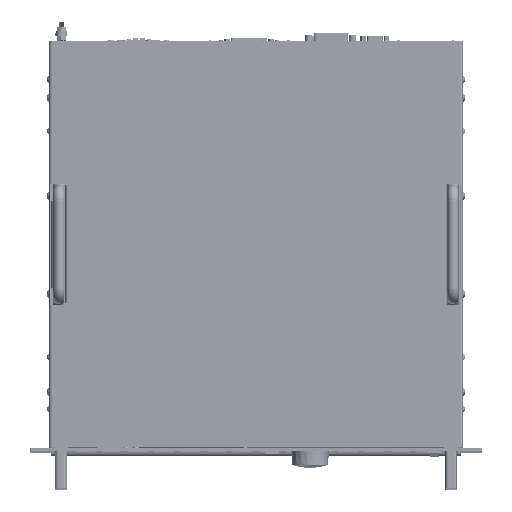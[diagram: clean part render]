
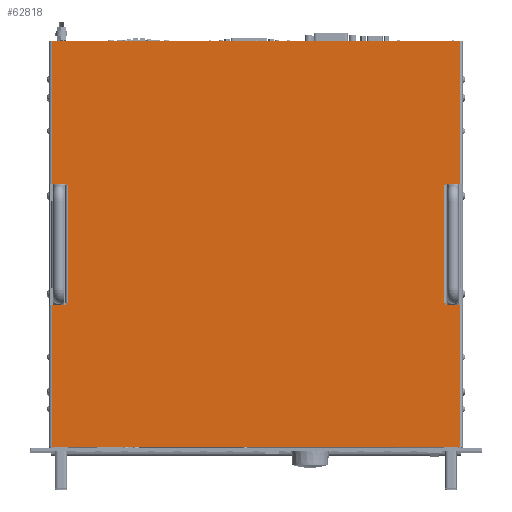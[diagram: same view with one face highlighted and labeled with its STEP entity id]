
A CAD part, top view. The second image highlights one B-rep face of the part: STEP entity #62818.
In plain terms, the highlighted planar face has unit normal (0, 0, 1).
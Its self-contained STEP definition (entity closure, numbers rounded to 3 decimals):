
#62818=ADVANCED_FACE('',(#131344),#131345,.F.);
#131344=FACE_OUTER_BOUND('',#230875,.T.);
#131345=PLANE('',#230876);
#230875=EDGE_LOOP('',(#415651,#415652,#415653,#415654,#415655,#415656,#415657,#415658,#415659,#415660,#415661,#415662,#415663,#415664,#415665,#415666,#415667,#415668,#415669,#415670));
#230876=AXIS2_PLACEMENT_3D('',#415671,#415672,#415673);
#415651=ORIENTED_EDGE('',*,*,#504675,.T.);
#415652=ORIENTED_EDGE('',*,*,#504695,.F.);
#415653=ORIENTED_EDGE('',*,*,#504696,.F.);
#415654=ORIENTED_EDGE('',*,*,#504339,.F.);
#415655=ORIENTED_EDGE('',*,*,#504661,.F.);
#415656=ORIENTED_EDGE('',*,*,#504324,.F.);
#415657=ORIENTED_EDGE('',*,*,#504650,.F.);
#415658=ORIENTED_EDGE('',*,*,#504697,.F.);
#415659=ORIENTED_EDGE('',*,*,#504693,.T.);
#415660=ORIENTED_EDGE('',*,*,#504688,.F.);
#415661=ORIENTED_EDGE('',*,*,#504685,.T.);
#415662=ORIENTED_EDGE('',*,*,#504698,.F.);
#415663=ORIENTED_EDGE('',*,*,#504626,.F.);
#415664=ORIENTED_EDGE('',*,*,#504314,.F.);
#415665=ORIENTED_EDGE('',*,*,#504615,.F.);
#415666=ORIENTED_EDGE('',*,*,#504334,.F.);
#415667=ORIENTED_EDGE('',*,*,#504699,.F.);
#415668=ORIENTED_EDGE('',*,*,#504700,.F.);
#415669=ORIENTED_EDGE('',*,*,#504672,.T.);
#415670=ORIENTED_EDGE('',*,*,#504680,.T.);
#415671=CARTESIAN_POINT('',(241.3,262.375,725.641));
#415672=DIRECTION('',(0.,0.,-1.0));
#415673=DIRECTION('',(1.0,0.,0.));
#504314=EDGE_CURVE('',#610505,#610507,#610508,.T.);
#504324=EDGE_CURVE('',#610523,#610525,#610526,.T.);
#504334=EDGE_CURVE('',#610541,#610543,#610544,.T.);
#504339=EDGE_CURVE('',#610550,#610552,#610553,.T.);
#504615=EDGE_CURVE('',#610543,#610505,#610983,.T.);
#504626=EDGE_CURVE('',#610507,#610998,#610999,.T.);
#504650=EDGE_CURVE('',#611031,#610523,#611033,.T.);
#504661=EDGE_CURVE('',#610525,#610550,#611048,.T.);
#504672=EDGE_CURVE('',#611059,#611062,#611064,.T.);
#504675=EDGE_CURVE('',#611069,#611066,#611070,.T.);
#504680=EDGE_CURVE('',#611062,#611069,#611075,.T.);
#504685=EDGE_CURVE('',#611081,#611079,#611082,.T.);
#504688=EDGE_CURVE('',#611081,#611085,#611086,.T.);
#504693=EDGE_CURVE('',#611091,#611085,#611093,.T.);
#504695=EDGE_CURVE('',#611095,#611066,#611096,.T.);
#504696=EDGE_CURVE('',#610552,#611095,#611097,.T.);
#504697=EDGE_CURVE('',#611091,#611031,#611098,.T.);
#504698=EDGE_CURVE('',#610998,#611079,#611099,.T.);
#504699=EDGE_CURVE('',#611100,#610541,#611101,.T.);
#504700=EDGE_CURVE('',#611059,#611100,#611102,.T.);
#610505=VERTEX_POINT('',#761854);
#610507=VERTEX_POINT('',#761856);
#610508=LINE('',#761857,#761858);
#610523=VERTEX_POINT('',#761876);
#610525=VERTEX_POINT('',#761878);
#610526=LINE('',#761879,#761880);
#610541=VERTEX_POINT('',#761898);
#610543=VERTEX_POINT('',#761900);
#610544=LINE('',#761901,#761902);
#610550=VERTEX_POINT('',#761909);
#610552=VERTEX_POINT('',#761911);
#610553=LINE('',#761912,#761913);
#610983=LINE('',#762464,#762465);
#610998=VERTEX_POINT('',#762485);
#610999=LINE('',#762486,#762487);
#611031=VERTEX_POINT('',#762533);
#611033=LINE('',#762536,#762537);
#611048=LINE('',#762557,#762558);
#611059=VERTEX_POINT('',#762573);
#611062=VERTEX_POINT('',#762577);
#611064=LINE('',#762579,#762580);
#611066=VERTEX_POINT('',#762582);
#611069=VERTEX_POINT('',#762586);
#611070=LINE('',#762587,#762588);
#611075=LINE('',#762593,#762594);
#611079=VERTEX_POINT('',#762599);
#611081=VERTEX_POINT('',#762602);
#611082=LINE('',#762603,#762604);
#611085=VERTEX_POINT('',#762607);
#611086=LINE('',#762608,#762609);
#611091=VERTEX_POINT('',#762614);
#611093=LINE('',#762617,#762618);
#611095=VERTEX_POINT('',#762620);
#611096=LINE('',#762621,#762622);
#611097=LINE('',#762623,#762624);
#611098=LINE('',#762625,#762626);
#611099=LINE('',#762627,#762628);
#611100=VERTEX_POINT('',#762629);
#611101=LINE('',#762630,#762631);
#611102=LINE('',#762632,#762633);
#761854=CARTESIAN_POINT('',(23.623,45.75,725.641));
#761856=CARTESIAN_POINT('',(23.623,197.75,725.641));
#761857=CARTESIAN_POINT('',(23.623,192.063,725.641));
#761858=VECTOR('',#849485,1.0);
#761876=CARTESIAN_POINT('',(23.623,327.,725.641));
#761878=CARTESIAN_POINT('',(23.623,479.,725.641));
#761879=CARTESIAN_POINT('',(23.623,332.688,725.641));
#761880=VECTOR('',#849501,1.0);
#761898=CARTESIAN_POINT('',(458.977,197.75,725.641));
#761900=CARTESIAN_POINT('',(458.977,45.75,725.641));
#761901=CARTESIAN_POINT('',(458.977,192.063,725.641));
#761902=VECTOR('',#849517,1.0);
#761909=CARTESIAN_POINT('',(458.977,479.,725.641));
#761911=CARTESIAN_POINT('',(458.977,327.,725.641));
#761912=CARTESIAN_POINT('',(458.977,332.688,725.641));
#761913=VECTOR('',#849525,1.0);
#762464=CARTESIAN_POINT('',(461.727,45.75,725.641));
#762465=VECTOR('',#849911,1.0);
#762485=CARTESIAN_POINT('',(38.873,197.75,725.641));
#762486=CARTESIAN_POINT('',(20.873,197.75,725.641));
#762487=VECTOR('',#849929,1.0);
#762533=CARTESIAN_POINT('',(38.873,327.,725.641));
#762536=CARTESIAN_POINT('',(38.873,327.,725.641));
#762537=VECTOR('',#849957,1.0);
#762557=CARTESIAN_POINT('',(20.873,479.,725.641));
#762558=VECTOR('',#849975,1.0);
#762573=CARTESIAN_POINT('',(443.727,199.75,725.641));
#762577=CARTESIAN_POINT('',(441.977,199.75,725.641));
#762579=CARTESIAN_POINT('',(342.593,199.75,725.641));
#762580=VECTOR('',#849987,1.0);
#762582=CARTESIAN_POINT('',(443.727,325.,725.641));
#762586=CARTESIAN_POINT('',(441.977,325.,725.641));
#762587=CARTESIAN_POINT('',(342.593,325.,725.641));
#762588=VECTOR('',#849989,1.0);
#762593=CARTESIAN_POINT('',(441.977,262.375,725.641));
#762594=VECTOR('',#849999,1.0);
#762599=CARTESIAN_POINT('',(38.873,199.75,725.641));
#762602=CARTESIAN_POINT('',(40.623,199.75,725.641));
#762603=CARTESIAN_POINT('',(140.007,199.75,725.641));
#762604=VECTOR('',#850002,1.0);
#762607=CARTESIAN_POINT('',(40.623,325.,725.641));
#762608=CARTESIAN_POINT('',(40.623,262.375,725.641));
#762609=VECTOR('',#850006,1.0);
#762614=CARTESIAN_POINT('',(38.873,325.,725.641));
#762617=CARTESIAN_POINT('',(140.007,325.,725.641));
#762618=VECTOR('',#850014,1.0);
#762620=CARTESIAN_POINT('',(443.727,327.,725.641));
#762621=CARTESIAN_POINT('',(443.727,327.,725.641));
#762622=VECTOR('',#850015,1.0);
#762623=CARTESIAN_POINT('',(461.727,327.,725.641));
#762624=VECTOR('',#850016,1.0);
#762625=CARTESIAN_POINT('',(38.873,325.,725.641));
#762626=VECTOR('',#850017,1.0);
#762627=CARTESIAN_POINT('',(38.873,197.75,725.641));
#762628=VECTOR('',#850018,1.0);
#762629=CARTESIAN_POINT('',(443.727,197.75,725.641));
#762630=CARTESIAN_POINT('',(443.727,197.75,725.641));
#762631=VECTOR('',#850019,1.0);
#762632=CARTESIAN_POINT('',(443.727,199.75,725.641));
#762633=VECTOR('',#850020,1.0);
#849485=DIRECTION('',(0.0,1.0,0.0));
#849501=DIRECTION('',(0.0,1.0,0.0));
#849517=DIRECTION('',(0.0,-1.0,0.0));
#849525=DIRECTION('',(0.0,-1.0,0.0));
#849911=DIRECTION('',(-1.0,0.0,0.0));
#849929=DIRECTION('',(1.0,0.0,0.0));
#849957=DIRECTION('',(-1.0,0.0,0.0));
#849975=DIRECTION('',(1.0,0.0,0.0));
#849987=DIRECTION('',(-1.0,0.0,0.0));
#849989=DIRECTION('',(1.0,0.0,0.0));
#849999=DIRECTION('',(0.0,1.0,0.0));
#850002=DIRECTION('',(-1.0,0.0,0.0));
#850006=DIRECTION('',(0.0,1.0,0.0));
#850014=DIRECTION('',(1.0,0.0,0.0));
#850015=DIRECTION('',(0.0,-1.0,0.0));
#850016=DIRECTION('',(-1.0,0.0,0.0));
#850017=DIRECTION('',(0.0,1.0,0.0));
#850018=DIRECTION('',(0.0,1.0,0.0));
#850019=DIRECTION('',(1.0,0.0,0.0));
#850020=DIRECTION('',(0.0,-1.0,0.0));
